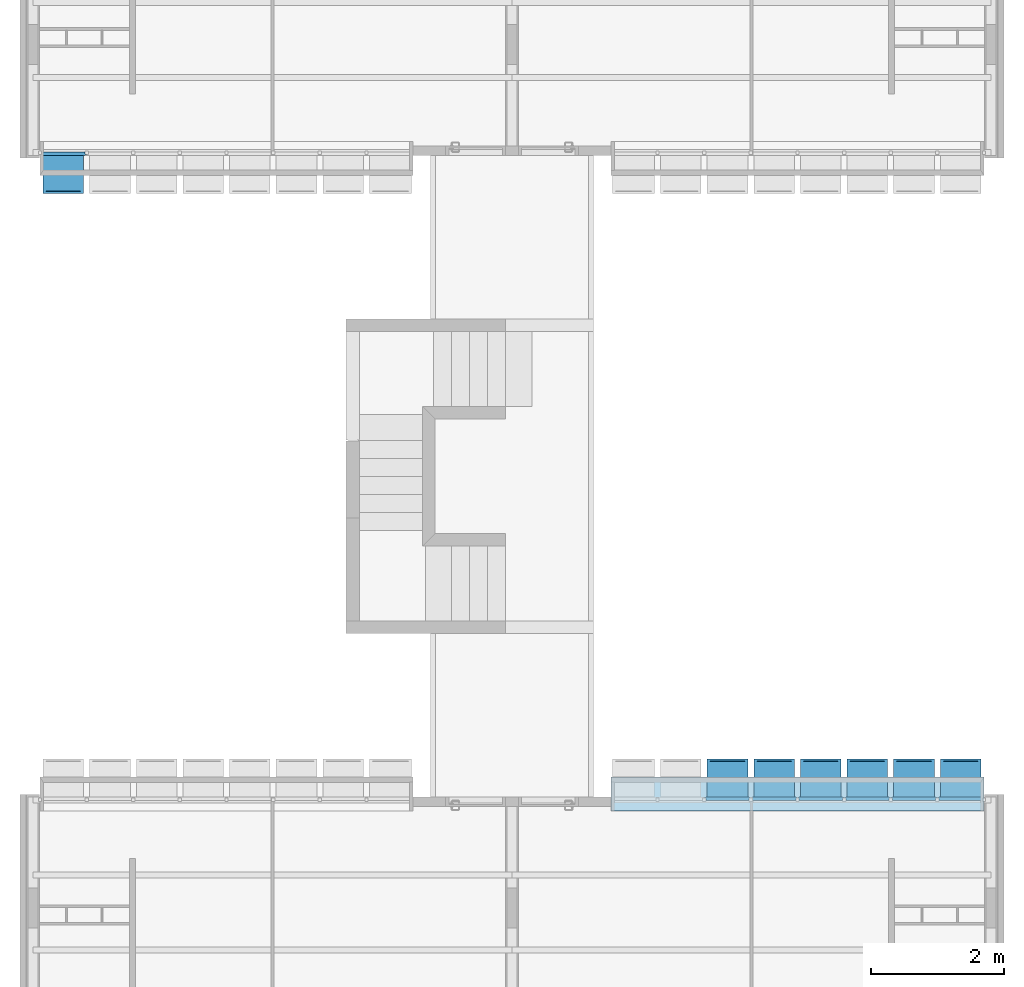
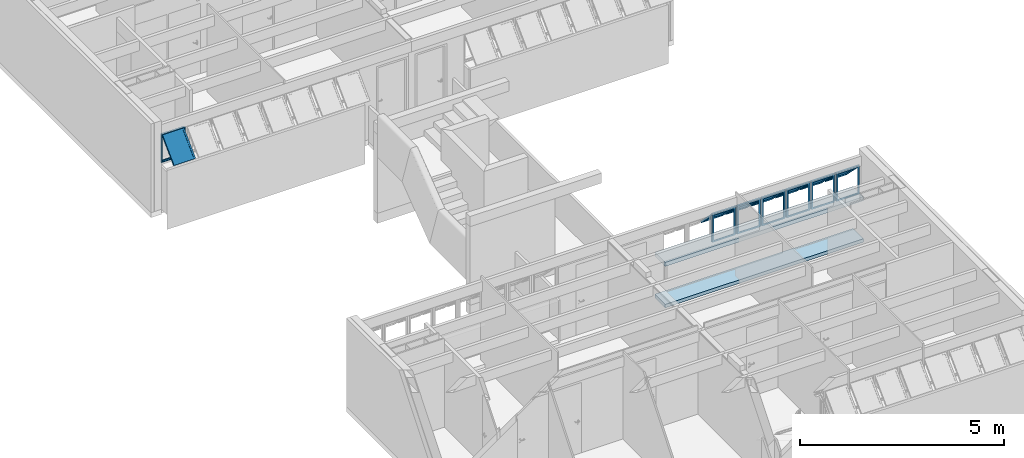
# One storey, part 10 of 40: 7 plates, 2 slabs, 2 elements without a shape of their own.
"""IFC4 building model written with IfcOpenShell, lengths in millimetres."""

import ifcopenshell
import ifcopenshell.guid

model = None  # the IFC model being written
_history = None  # IfcOwnerHistory: only IFC2X3 demands one
_inside = {}  # id of a spatial element -> (the spatial element, [elements in it])
_under = {}  # id of a project, library or spatial element -> (it, [spatial elements below it])
_declared = {}  # id of a project -> (the project, [libraries it declares])
_typed = {}  # id of a type object -> (the type object, [elements of that type])
_made_of = {}  # id of a material, layer set ... -> (it, [elements and type objects made of it])


def new_model(schema):
    """Start an empty IFC model of exactly this schema.

    Asked for "IFC4X3", IfcOpenShell would pick the latest addendum, in which some entities
    have other attributes; the version numbers below select the first issue.
    IFC2X3 requires an IfcOwnerHistory on every rooted entity: one is made here for all.
    """
    global model, _history
    if schema == "IFC4X3":
        model = ifcopenshell.file(schema_version=(4, 3, 0, 0))
    else:
        model = ifcopenshell.file(schema=schema)
    _inside.clear()
    _under.clear()
    _declared.clear()
    _typed.clear()
    _made_of.clear()
    _history = None
    if model.schema == "IFC2X3":
        org = make("IfcOrganization", Name="unknown")
        user = make(
            "IfcPersonAndOrganization",
            ThePerson=make("IfcPerson", FamilyName="unknown"),
            TheOrganization=org,
        )
        app = make(
            "IfcApplication",
            ApplicationDeveloper=org,
            Version="unknown",
            ApplicationFullName="unknown",
            ApplicationIdentifier="unknown",
        )
        _history = make(
            "IfcOwnerHistory",
            OwningUser=user,
            OwningApplication=app,
            ChangeAction="ADDED",
            CreationDate=0,
        )
    return model


def make(cls, **values):
    """One entity of the class cls with the attributes given. An attribute that is None is left unset."""
    return model.create_entity(
        cls, **{name: value for name, value in values.items() if value is not None}
    )


def entity(cls, *values):
    """Any entity or typed value of the class cls, its attributes in the order of the schema. None: left unset."""
    e = model.create_entity(cls)
    for i, value in enumerate(values):
        if value is not None:
            e[i] = value
    return e


def rooted(cls, **values):
    """An entity with a GlobalId (a new one), such as an element, a storey or a relation."""
    return make(cls, GlobalId=ifcopenshell.guid.new(), OwnerHistory=_history, **values)


def si_unit(unit_type, name, prefix=None):
    """IfcSIUnit, for example si_unit("LENGTHUNIT", "METRE", prefix="MILLI")."""
    return make("IfcSIUnit", UnitType=unit_type, Prefix=prefix, Name=name)


def converted_unit(unit_type, name, factor, base, dimensions=None, offset=None):
    """IfcConversionBasedUnit, such as the inch: factor (a typed value) times the base unit."""
    return make(
        "IfcConversionBasedUnit"
        if offset is None
        else "IfcConversionBasedUnitWithOffset",
        ConversionOffset=offset,
        Dimensions=None
        if dimensions is None
        else entity("IfcDimensionalExponents", *dimensions),
        UnitType=unit_type,
        Name=name,
        ConversionFactor=make(
            "IfcMeasureWithUnit", ValueComponent=factor, UnitComponent=base
        ),
    )


def derived_unit(unit_type, elements):
    """IfcDerivedUnit: a product of units, each with its exponent."""
    return make(
        "IfcDerivedUnit",
        Elements=[
            make("IfcDerivedUnitElement", Unit=unit, Exponent=power)
            for unit, power in elements
        ],
        UnitType=unit_type,
    )


def assignment(units):
    """IfcUnitAssignment: the units of a project."""
    return None if units is None else make("IfcUnitAssignment", Units=units)


def point(xyz):
    """IfcCartesianPoint."""
    return None if xyz is None else make("IfcCartesianPoint", Coordinates=xyz)


def direction(xyz):
    """IfcDirection."""
    return None if xyz is None else make("IfcDirection", DirectionRatios=xyz)


def frame(location, z_axis=None, x_axis=None):
    """IfcAxis2Placement3D, a coordinate frame: its origin and axes. An axis left out is left unset."""
    return make(
        "IfcAxis2Placement3D",
        Location=point(location),
        Axis=direction(z_axis),
        RefDirection=direction(x_axis),
    )


def origin_with_axes():
    """The frame at (0, 0, 0) with the z axis (0, 0, 1) and the x axis (1, 0, 0) written out."""
    return frame((0.0, 0.0, 0.0), z_axis=(0.0, 0.0, 1.0), x_axis=(1.0, 0.0, 0.0))


def place(relative_to, where):
    """IfcLocalPlacement: puts the frame where relative to a parent placement (None: the world)."""
    return make(
        "IfcLocalPlacement", PlacementRelTo=relative_to, RelativePlacement=where
    )


def context(
    kind, dimensions, precision=None, world=None, true_north=None, identifier=None
):
    """IfcGeometricRepresentationContext, for example the 3D "Model" context."""
    return make(
        "IfcGeometricRepresentationContext",
        ContextIdentifier=identifier,
        ContextType=kind,
        CoordinateSpaceDimension=dimensions,
        Precision=precision,
        WorldCoordinateSystem=world,
        TrueNorth=true_north,
    )


def subcontext(parent, identifier, kind, view, scale=None):
    """IfcGeometricRepresentationSubContext, for example "Body" below "Model"."""
    return make(
        "IfcGeometricRepresentationSubContext",
        ContextIdentifier=identifier,
        ContextType=kind,
        ParentContext=parent,
        TargetScale=scale,
        TargetView=view,
    )


def project(units=None, contexts=None):
    """IfcProject with its units and contexts."""
    return rooted(
        "IfcProject",
        Name="project",
        RepresentationContexts=contexts,
        UnitsInContext=assignment(units),
    )


def spatial(cls, under=None, at=None, **own):
    """A site, building, storey or space (cls), placed at a placement, below another one or the project."""
    s = rooted(cls, ObjectPlacement=at, **own)
    if under is not None:
        _under.setdefault(under.id(), (under, []))[1].append(s)
    return s


def point_list(points):
    """IfcCartesianPointList2D or 3D."""
    cls = (
        "IfcCartesianPointList2D" if len(points[0]) == 2 else "IfcCartesianPointList3D"
    )
    return make(cls, CoordList=points)


def line(*indices):
    """IfcLineIndex: a straight run through numbered points of an indexed curve."""
    return model.create_entity("IfcLineIndex", indices)


def indexed_curve(points, segments=None, self_intersect=None):
    """IfcIndexedPolyCurve: lines and arcs through numbered points (the first is 1)."""
    return make(
        "IfcIndexedPolyCurve",
        Points=point_list(points),
        Segments=segments,
        SelfIntersect=self_intersect,
    )


def outline(outer, holes=None, kind="AREA"):
    """IfcArbitraryClosedProfileDef: a profile drawn as a closed curve; with holes, ...WithVoids."""
    if holes is None:
        return make("IfcArbitraryClosedProfileDef", ProfileType=kind, OuterCurve=outer)
    return make(
        "IfcArbitraryProfileDefWithVoids",
        ProfileType=kind,
        OuterCurve=outer,
        InnerCurves=holes,
    )


def extrude(swept, where, along, depth):
    """IfcExtrudedAreaSolid: the profile swept, set in the frame where, extruded along a direction by depth."""
    return make(
        "IfcExtrudedAreaSolid",
        SweptArea=swept,
        Position=where,
        ExtrudedDirection=direction(along),
        Depth=depth,
    )


def polygons(points, faces, closed=None, point_numbers=None):
    """IfcPolygonalFaceSet: a face is its outer loop, then its inner loops; points numbered from 1."""
    made = []
    for loops in faces:
        if len(loops) == 1:
            made.append(make("IfcIndexedPolygonalFace", CoordIndex=loops[0]))
        else:
            made.append(
                make(
                    "IfcIndexedPolygonalFaceWithVoids",
                    CoordIndex=loops[0],
                    InnerCoordIndices=loops[1:],
                )
            )
    return make(
        "IfcPolygonalFaceSet",
        Coordinates=point_list(points),
        Closed=closed,
        Faces=made,
        PnIndex=point_numbers,
    )


def shape(context_of_items, identifier, shape_type, items):
    """IfcShapeRepresentation: the items that make up one representation, for example the "Body"."""
    return make(
        "IfcShapeRepresentation",
        ContextOfItems=context_of_items,
        RepresentationIdentifier=identifier,
        RepresentationType=shape_type,
        Items=items,
    )


def source(mapping_origin, context_of_items, identifier, shape_type, items):
    """IfcRepresentationMap: a shape defined once, which mapped items show again and again."""
    return make(
        "IfcRepresentationMap",
        MappingOrigin=mapping_origin,
        MappedRepresentation=shape(context_of_items, identifier, shape_type, items),
    )


def transform(
    local_origin,
    x_axis=None,
    y_axis=None,
    z_axis=None,
    scale=None,
    scale2=None,
    scale3=None,
    uniform=True,
):
    """IfcCartesianTransformationOperator3D, or its non-uniform kind. x_axis, y_axis, z_axis: its Axis1, 2, 3."""
    if uniform:
        return make(
            "IfcCartesianTransformationOperator3D",
            Axis1=direction(x_axis),
            Axis2=direction(y_axis),
            LocalOrigin=point(local_origin),
            Scale=scale,
            Axis3=direction(z_axis),
        )
    return make(
        "IfcCartesianTransformationOperator3DnonUniform",
        Axis1=direction(x_axis),
        Axis2=direction(y_axis),
        LocalOrigin=point(local_origin),
        Scale=scale,
        Axis3=direction(z_axis),
        Scale2=scale2,
        Scale3=scale3,
    )


def mapped(mapping_source, mapping_target):
    """IfcMappedItem: shows the shape of a source again, moved by a transform."""
    return make(
        "IfcMappedItem", MappingSource=mapping_source, MappingTarget=mapping_target
    )


def material(Name=None, Category=None):
    """IfcMaterial."""
    return make("IfcMaterial", Name=Name, Category=Category)


def layer(
    of_material, thickness, ventilated=None, Name=None, Category=None, Priority=None
):
    """IfcMaterialLayer: one layer of a wall or slab, of a material (None: an air gap)."""
    return make(
        "IfcMaterialLayer",
        Material=of_material,
        LayerThickness=thickness,
        IsVentilated=ventilated,
        Name=Name,
        Category=Category,
        Priority=Priority,
    )


def layer_set(layers, Name=None):
    """IfcMaterialLayerSet."""
    return make("IfcMaterialLayerSet", MaterialLayers=layers, LayerSetName=Name)


def layer_usage(for_layer_set, set_direction, sense, offset, extent=None):
    """IfcMaterialLayerSetUsage: how a layer set lies in its element."""
    return make(
        "IfcMaterialLayerSetUsage",
        ForLayerSet=for_layer_set,
        LayerSetDirection=set_direction,
        DirectionSense=sense,
        OffsetFromReferenceLine=offset,
        ReferenceExtent=extent,
    )


def constituent(of_material, Name=None, Category=None, fraction=None):
    """IfcMaterialConstituent: one of the materials an element consists of."""
    return make(
        "IfcMaterialConstituent",
        Name=Name,
        Material=of_material,
        Fraction=fraction,
        Category=Category,
    )


def constituent_set(constituents=None, Name=None):
    """IfcMaterialConstituentSet."""
    return make(
        "IfcMaterialConstituentSet", Name=Name, MaterialConstituents=constituents
    )


def made_of(thing, what):
    """Note that an element or type object is made of a material, layer set ...; save() writes the relation."""
    if what is not None:
        _made_of.setdefault(what.id(), (what, []))[1].append(thing)
    return thing


def type_object(cls, material=None, **own):
    """A type object (cls), such as IfcWallType, which elements share."""
    return made_of(rooted(cls, **own), material)


def element(
    cls,
    number,
    at=None,
    inside=None,
    cuts=None,
    type_object=None,
    material=None,
    context=None,
    identifier="Body",
    shape_type=None,
    held_by="IfcProductDefinitionShape",
    body=None,
    shapes=None,
    **own,
):
    """One element of the class cls, such as IfcWall. Its Tag is "e" and its number.

    at: its placement. inside: the storey or other place that contains it. cuts: it is an
    opening in that element (IfcRelVoidsElement). A single representation is given by context,
    identifier, shape_type and body (its items); several are given by shapes. held_by: the class
    of the entity that holds the representations. save() writes the other relations.
    """
    e = rooted(cls, Tag="e%d" % number, ObjectPlacement=at, **own)
    if body is not None:
        shapes = [shape(context, identifier, shape_type, body)]
    if shapes is not None:
        e.Representation = make(held_by, Representations=shapes)
    if inside is not None:
        _inside.setdefault(inside.id(), (inside, []))[1].append(e)
    if cuts is not None:
        rooted(
            "IfcRelVoidsElement", RelatingBuildingElement=cuts, RelatedOpeningElement=e
        )
    if type_object is not None:
        _typed.setdefault(type_object.id(), (type_object, []))[1].append(e)
    return made_of(e, material)


def aggregate(whole, parts):
    """IfcRelAggregates: a whole, such as a stair, and the parts it consists of."""
    return rooted("IfcRelAggregates", RelatingObject=whole, RelatedObjects=parts)


def save(model, path):
    """Write the relations noted so far, then the file.

    IfcRelAggregates (storeys below a building ...), IfcRelContainedInSpatialStructure (elements
    in a storey), IfcRelDefinesByType, IfcRelAssociatesMaterial and IfcRelDeclares: one each for
    every whole, place, type object, material and project.
    """
    for whole, parts in _under.values():
        aggregate(whole, parts)
    for where, things in _inside.values():
        rooted(
            "IfcRelContainedInSpatialStructure",
            RelatedElements=things,
            RelatingStructure=where,
        )
    for kind, things in _typed.values():
        rooted("IfcRelDefinesByType", RelatedObjects=things, RelatingType=kind)
    for what, things in _made_of.values():
        rooted("IfcRelAssociatesMaterial", RelatedObjects=things, RelatingMaterial=what)
    for by, libraries in _declared.values():
        rooted("IfcRelDeclares", RelatingContext=by, RelatedDefinitions=libraries)
    model.write(path)


model = new_model("IFC4")

# Units and contexts
model_context = context("Model", 3, precision=0.01, world=origin_with_axes(), true_north=direction((0.0, 1.0)))
body_context = subcontext(model_context, "Body", "Model", "MODEL_VIEW")
ifc_project = project(units=[si_unit("LENGTHUNIT", "METRE", prefix="MILLI"), si_unit("AREAUNIT", "SQUARE_METRE"), si_unit("VOLUMEUNIT", "CUBIC_METRE"), converted_unit("PLANEANGLEUNIT", "DEGREE", entity("IfcPlaneAngleMeasure", 0.0174532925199), si_unit("PLANEANGLEUNIT", "RADIAN"), dimensions=[0, 0, 0, 0, 0, 0, 0]), converted_unit("TIMEUNIT", "Year", entity("IfcTimeMeasure", 31556926.0), si_unit("TIMEUNIT", "SECOND"), dimensions=[0, 0, 1, 0, 0, 0, 0]), si_unit("MASSUNIT", "GRAM", prefix="KILO"), si_unit("THERMODYNAMICTEMPERATUREUNIT", "DEGREE_CELSIUS"), si_unit("LUMINOUSINTENSITYUNIT", "LUMEN"), si_unit("ENERGYUNIT", "JOULE", prefix="MEGA"), derived_unit("THERMALCONDUCTANCEUNIT", [(si_unit("POWERUNIT", "WATT"), 1), (si_unit("LENGTHUNIT", "METRE"), -1), (si_unit("THERMODYNAMICTEMPERATUREUNIT", "KELVIN"), -1)]), derived_unit("SPECIFICHEATCAPACITYUNIT", [(si_unit("ENERGYUNIT", "JOULE"), 1), (si_unit("MASSUNIT", "GRAM", prefix="KILO"), -1), (si_unit("THERMODYNAMICTEMPERATUREUNIT", "KELVIN"), -1)]), derived_unit("MASSDENSITYUNIT", [(si_unit("MASSUNIT", "GRAM", prefix="KILO"), 1), (si_unit("VOLUMEUNIT", "CUBIC_METRE"), -1)])], contexts=[model_context])

# Site, building, storey
site_placement = place(None, origin_with_axes())
site = spatial("IfcSite", under=ifc_project, at=site_placement, Name="Local", CompositionType="ELEMENT")
building_placement = place(site_placement, origin_with_axes())
building = spatial("IfcBuilding", under=site, at=building_placement, Name="Construção", CompositionType="ELEMENT")
storey_placement = place(building_placement, origin_with_axes())
storey = spatial("IfcBuildingStorey", under=building, at=storey_placement, Name="Primeiro Pavimento", CompositionType="ELEMENT", Elevation=0.0)

# Slab
ifc_material_1 = material(Name="Concreto Armado Moldado in Loco - Estrutural")
ifc_layer_1 = layer(ifc_material_1, 120.0, ventilated="UNKNOWN", Name="Concreto Armado Moldado in Loco - Estrutural")
ifc_layer_set_1 = layer_set([ifc_layer_1], Name="Concreto Armado Moldado in Loco - Estrutural 120")
ifc_layer_usage_1 = layer_usage(ifc_layer_set_1, "AXIS3", "NEGATIVE", 120.0)
slab_type_1 = type_object("IfcSlabType", Name="Concreto Armado Moldado in Loco - Estrutural 120", PredefinedType="FLOOR")
slab_1_placement = place(storey_placement, frame((14470.0, 8564.99999866, 1355.0), z_axis=(0.0, 0.0, 1.0), x_axis=(1.0, 0.0, 0.0)))
element("IfcSlab", 1, at=slab_1_placement, inside=storey, type_object=slab_type_1, material=ifc_layer_usage_1, Name="APTO2-LAJE-003", PredefinedType="FLOOR", context=body_context, shape_type="SweptSolid", body=[
    extrude(outline(indexed_curve([(0.0, 0.0), (-5600.0, 0.0), (-5600.0, -510.0), (0.0, -510.0)], segments=[line(1, 2, 3, 4, 1)])), frame((0.0, 0.0, -120.0), z_axis=(0.0, 0.0, 1.0), x_axis=(1.0, 0.0, 0.0)), (0.0, 0.0, 1.0), 120.0),
])

# Window, plates
window_type = type_object("IfcWindowType", Name="Tipo de Parede Cortina", PartitioningType="NOTDEFINED", PredefinedType="NOTDEFINED")
window_1_placement = place(storey_placement, frame((12020.0, 8250.0, 1355.00007107), z_axis=(0.0, 0.0, 1.0), x_axis=(1.0, 0.0, 0.0)))
window_1 = element("IfcWindow", 2, at=window_1_placement, inside=storey, type_object=window_type, Name="APTO2-JANELA-000", PredefinedType="NOTDEFINED")
ifc_material_2 = material(Name="Alumínio")
ifc_constituent_1 = constituent(ifc_material_2, Name="Alumínio")
ifc_material_3 = material(Name="Vidro")
ifc_constituent_2 = constituent(ifc_material_3, Name="Vidro")
ifc_constituent_set_1 = constituent_set(constituents=[ifc_constituent_1, ifc_constituent_2])
plate_type = type_object("IfcPlateType", Name="Painel Principal 690 x 845 x 20", PredefinedType="CURTAIN_PANEL")
shared_shape_1 = source(origin_with_axes(), body_context, "Body", "Tessellation", [
    polygons([(25.0000036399, 0.0, -40.0), (674.999997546, 0.0, -40.0), (674.999997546, 0.0, -35.0), (25.0000036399, 0.0, -35.0), (70.0000036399, 45.0, -40.0), (629.999997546, 45.0, -40.0), (629.999997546, 45.0, -35.0), (70.0000036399, 45.0, -35.0)], [[[1, 2, 3, 4]], [[1, 5, 6, 2]], [[2, 6, 7, 3]], [[4, 3, 7, 8]], [[5, 1, 4, 8]], [[6, 5, 8, 7]]], closed=True),
    polygons([(674.999997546, 0.0, -40.0), (674.999997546, 844.999891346, -40.0), (674.999997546, 844.999891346, -35.0), (674.999997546, 0.0, -35.0), (629.999997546, 45.0, -40.0), (629.999997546, 799.999891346, -40.0), (629.999997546, 799.999891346, -35.0), (629.999997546, 45.0, -35.0)], [[[1, 2, 3, 4]], [[1, 5, 6, 2]], [[2, 6, 7, 3]], [[4, 3, 7, 8]], [[5, 1, 4, 8]], [[6, 5, 8, 7]]], closed=True),
    polygons([(25.0000036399, 844.999891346, -40.0), (70.0000036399, 799.999891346, -40.0), (70.0000036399, 799.999891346, -35.0), (25.0000036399, 844.999891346, -35.0), (674.999997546, 844.999891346, -40.0), (629.999997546, 799.999891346, -40.0), (629.999997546, 799.999891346, -35.0), (674.999997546, 844.999891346, -35.0)], [[[1, 2, 3, 4]], [[1, 5, 6, 2]], [[2, 6, 7, 3]], [[4, 3, 7, 8]], [[5, 1, 4, 8]], [[6, 5, 8, 7]]], closed=True),
    polygons([(25.0000036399, 0.0, -40.0), (70.0000036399, 45.0, -40.0), (70.0000036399, 45.0, -35.0), (25.0000036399, 0.0, -35.0), (25.0000036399, 844.999891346, -40.0), (70.0000036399, 799.999891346, -40.0), (70.0000036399, 799.999891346, -35.0), (25.0000036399, 844.999891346, -35.0)], [[[1, 2, 3, 4]], [[1, 5, 6, 2]], [[2, 6, 7, 3]], [[4, 3, 7, 8]], [[5, 1, 4, 8]], [[6, 5, 8, 7]]], closed=True),
    polygons([(25.0000036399, 0.0, -35.0), (674.999997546, 0.0, -35.0), (674.999997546, 0.0, 15.0), (25.0000036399, 0.0, 15.0), (45.0000036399, 20.0, -35.0), (654.999997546, 20.0, -35.0), (654.999997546, 20.0, 15.0), (45.0000036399, 20.0, 15.0)], [[[1, 2, 3, 4]], [[1, 5, 6, 2]], [[2, 6, 7, 3]], [[4, 3, 7, 8]], [[5, 1, 4, 8]], [[6, 5, 8, 7]]], closed=True),
    polygons([(674.999997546, 0.0, -35.0), (674.999997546, 844.999891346, -35.0), (674.999997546, 844.999891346, 15.0), (674.999997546, 0.0, 15.0), (654.999997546, 20.0, -35.0), (654.999997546, 824.999891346, -35.0), (654.999997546, 824.999891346, 15.0), (654.999997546, 20.0, 15.0)], [[[1, 2, 3, 4]], [[1, 5, 6, 2]], [[2, 6, 7, 3]], [[4, 3, 7, 8]], [[5, 1, 4, 8]], [[6, 5, 8, 7]]], closed=True),
    polygons([(25.0000036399, 844.999891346, -35.0), (45.0000036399, 824.999891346, -35.0), (45.0000036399, 824.999891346, 15.0), (25.0000036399, 844.999891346, 15.0), (674.999997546, 844.999891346, -35.0), (654.999997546, 824.999891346, -35.0), (654.999997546, 824.999891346, 15.0), (674.999997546, 844.999891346, 15.0)], [[[1, 2, 3, 4]], [[1, 5, 6, 2]], [[2, 6, 7, 3]], [[4, 3, 7, 8]], [[5, 1, 4, 8]], [[6, 5, 8, 7]]], closed=True),
    polygons([(25.0000036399, 0.0, -35.0), (45.0000036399, 20.0, -35.0), (45.0000036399, 20.0, 15.0), (25.0000036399, 0.0, 15.0), (25.0000036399, 844.999891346, -35.0), (45.0000036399, 824.999891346, -35.0), (45.0000036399, 824.999891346, 15.0), (25.0000036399, 844.999891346, 15.0)], [[[1, 2, 3, 4]], [[1, 5, 6, 2]], [[2, 6, 7, 3]], [[4, 3, 7, 8]], [[5, 1, 4, 8]], [[6, 5, 8, 7]]], closed=True),
    polygons([(694.999995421, 0.0, -10.0), (694.999995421, 844.999891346, -10.0), (694.999995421, 844.999891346, 10.0), (694.999995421, 0.0, 10.0), (674.999997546, 0.0, -10.0), (674.999997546, 844.999891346, -10.0), (674.999997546, 844.999891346, 10.0), (674.999997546, 0.0, 10.0)], [[[1, 2, 3, 4]], [[1, 5, 6, 2]], [[2, 6, 7, 3]], [[4, 3, 7, 8]], [[5, 1, 4, 8]], [[6, 5, 8, 7]]], closed=True),
    polygons([(5.00000576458, 844.999891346, -10.0), (5.00000576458, 0.0, -10.0), (5.00000576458, 0.0, 10.0), (5.00000576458, 844.999891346, 10.0), (25.0000036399, 844.999891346, -10.0), (25.0000036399, 0.0, -10.0), (25.0000036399, 0.0, 10.0), (25.0000036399, 844.999891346, 10.0)], [[[1, 2, 3, 4]], [[1, 5, 6, 2]], [[2, 6, 7, 3]], [[4, 3, 7, 8]], [[5, 1, 4, 8]], [[6, 5, 8, 7]]], closed=True),
    polygons([(90.0000036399, 252.243475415, 517.045737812), (90.0000036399, 757.824747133, 11.4644660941), (90.0000036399, 796.715620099, 50.3553390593), (90.0000036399, 291.13434838, 555.936610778), (45.0000036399, 220.423670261, 548.865542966), (45.0000036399, 789.644552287, -20.3553390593), (45.0000036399, 828.535425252, 18.5355339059), (45.0000036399, 259.314543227, 587.756415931)], [[[1, 2, 3, 4]], [[1, 5, 6, 2]], [[2, 6, 7, 3]], [[4, 3, 7, 8]], [[5, 1, 4, 8]], [[6, 5, 8, 7]]], closed=True),
    polygons([(654.999997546, 220.423670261, 548.865542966), (654.999997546, 789.644552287, -20.3553390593), (654.999997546, 828.535425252, 18.5355339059), (654.999997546, 259.314543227, 587.756415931), (609.999997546, 252.243475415, 517.045737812), (609.999997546, 757.824747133, 11.4644660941), (609.999997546, 796.715620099, 50.3553390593), (609.999997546, 291.13434838, 555.936610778)], [[[1, 2, 3, 4]], [[1, 5, 6, 2]], [[2, 6, 7, 3]], [[4, 3, 7, 8]], [[5, 1, 4, 8]], [[6, 5, 8, 7]]], closed=True),
    polygons([(654.999997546, 220.423670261, 548.865542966), (609.999997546, 252.243475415, 517.045737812), (609.999997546, 291.13434838, 555.936610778), (654.999997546, 259.314543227, 587.756415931), (45.0000036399, 220.423670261, 548.865542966), (90.0000036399, 252.243475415, 517.045737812), (90.0000036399, 291.13434838, 555.936610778), (45.0000036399, 259.314543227, 587.756415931)], [[[1, 2, 3, 4]], [[1, 5, 6, 2]], [[2, 6, 7, 3]], [[4, 3, 7, 8]], [[5, 1, 4, 8]], [[6, 5, 8, 7]]], closed=True),
    polygons([(45.0000036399, 789.644552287, -20.3553390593), (90.0000036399, 757.824747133, 11.4644660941), (90.0000036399, 796.715620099, 50.3553390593), (45.0000036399, 828.535425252, 18.5355339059), (654.999997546, 789.644552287, -20.3553390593), (609.999997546, 757.824747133, 11.4644660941), (609.999997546, 796.715620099, 50.3553390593), (654.999997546, 828.535425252, 18.5355339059)], [[[1, 2, 3, 4]], [[1, 5, 6, 2]], [[2, 6, 7, 3]], [[4, 3, 7, 8]], [[5, 1, 4, 8]], [[6, 5, 8, 7]]], closed=True),
    polygons([(90.0000036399, 272.749572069, 537.551834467), (609.999997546, 272.749572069, 537.551834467), (609.999997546, 284.063280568, 548.865542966), (90.0000036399, 284.063280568, 548.865542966), (90.0000036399, 778.330843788, 31.9705627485), (609.999997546, 778.330843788, 31.9705627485), (609.999997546, 789.644552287, 43.2842712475), (90.0000036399, 789.644552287, 43.2842712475)], [[[1, 2, 3, 4]], [[1, 5, 6, 2]], [[2, 6, 7, 3]], [[4, 3, 7, 8]], [[5, 1, 4, 8]], [[6, 5, 8, 7]]], closed=True),
])
plate_1_placement = place(window_1_placement, frame((0.0, 0.0, 422.499964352), z_axis=(0.0, 0.0, 1.0), x_axis=(1.0, 0.0, 0.0)))
plate_1 = element("IfcPlate", 3, at=plate_1_placement, type_object=plate_type, material=ifc_constituent_set_1, Name="APTO2-Painel-Prin-013", PredefinedType="CURTAIN_PANEL", context=body_context, shape_type="MappedRepresentation", body=[
    mapped(shared_shape_1, transform((350.0, 0.0, -422.499964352), x_axis=(-1.0, 0.0, 0.0), y_axis=(0.0, 0.0, 1.0), z_axis=(0.0, 1.0, 0.0))),
])
ifc_constituent_3 = constituent(ifc_material_2, Name="Alumínio")
ifc_constituent_4 = constituent(ifc_material_3, Name="Vidro")
ifc_constituent_set_2 = constituent_set(constituents=[ifc_constituent_3, ifc_constituent_4])
shared_shape_2 = source(origin_with_axes(), body_context, "Body", "Tessellation", [
    polygons([(25.0000036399, 0.0, -40.0), (674.999997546, 0.0, -40.0), (674.999997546, 0.0, -35.0), (25.0000036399, 0.0, -35.0), (70.0000036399, 45.0, -40.0), (629.999997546, 45.0, -40.0), (629.999997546, 45.0, -35.0), (70.0000036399, 45.0, -35.0)], [[[1, 2, 3, 4]], [[1, 5, 6, 2]], [[2, 6, 7, 3]], [[4, 3, 7, 8]], [[5, 1, 4, 8]], [[6, 5, 8, 7]]], closed=True),
    polygons([(674.999997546, 0.0, -40.0), (674.999997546, 844.999891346, -40.0), (674.999997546, 844.999891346, -35.0), (674.999997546, 0.0, -35.0), (629.999997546, 45.0, -40.0), (629.999997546, 799.999891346, -40.0), (629.999997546, 799.999891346, -35.0), (629.999997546, 45.0, -35.0)], [[[1, 2, 3, 4]], [[1, 5, 6, 2]], [[2, 6, 7, 3]], [[4, 3, 7, 8]], [[5, 1, 4, 8]], [[6, 5, 8, 7]]], closed=True),
    polygons([(25.0000036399, 844.999891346, -40.0), (70.0000036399, 799.999891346, -40.0), (70.0000036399, 799.999891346, -35.0), (25.0000036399, 844.999891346, -35.0), (674.999997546, 844.999891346, -40.0), (629.999997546, 799.999891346, -40.0), (629.999997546, 799.999891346, -35.0), (674.999997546, 844.999891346, -35.0)], [[[1, 2, 3, 4]], [[1, 5, 6, 2]], [[2, 6, 7, 3]], [[4, 3, 7, 8]], [[5, 1, 4, 8]], [[6, 5, 8, 7]]], closed=True),
    polygons([(25.0000036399, 0.0, -40.0), (70.0000036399, 45.0, -40.0), (70.0000036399, 45.0, -35.0), (25.0000036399, 0.0, -35.0), (25.0000036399, 844.999891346, -40.0), (70.0000036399, 799.999891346, -40.0), (70.0000036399, 799.999891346, -35.0), (25.0000036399, 844.999891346, -35.0)], [[[1, 2, 3, 4]], [[1, 5, 6, 2]], [[2, 6, 7, 3]], [[4, 3, 7, 8]], [[5, 1, 4, 8]], [[6, 5, 8, 7]]], closed=True),
    polygons([(25.0000036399, 0.0, -35.0), (674.999997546, 0.0, -35.0), (674.999997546, 0.0, 15.0), (25.0000036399, 0.0, 15.0), (45.0000036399, 20.0, -35.0), (654.999997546, 20.0, -35.0), (654.999997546, 20.0, 15.0), (45.0000036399, 20.0, 15.0)], [[[1, 2, 3, 4]], [[1, 5, 6, 2]], [[2, 6, 7, 3]], [[4, 3, 7, 8]], [[5, 1, 4, 8]], [[6, 5, 8, 7]]], closed=True),
    polygons([(674.999997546, 0.0, -35.0), (674.999997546, 844.999891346, -35.0), (674.999997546, 844.999891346, 15.0), (674.999997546, 0.0, 15.0), (654.999997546, 20.0, -35.0), (654.999997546, 824.999891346, -35.0), (654.999997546, 824.999891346, 15.0), (654.999997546, 20.0, 15.0)], [[[1, 2, 3, 4]], [[1, 5, 6, 2]], [[2, 6, 7, 3]], [[4, 3, 7, 8]], [[5, 1, 4, 8]], [[6, 5, 8, 7]]], closed=True),
    polygons([(25.0000036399, 844.999891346, -35.0), (45.0000036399, 824.999891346, -35.0), (45.0000036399, 824.999891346, 15.0), (25.0000036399, 844.999891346, 15.0), (674.999997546, 844.999891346, -35.0), (654.999997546, 824.999891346, -35.0), (654.999997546, 824.999891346, 15.0), (674.999997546, 844.999891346, 15.0)], [[[1, 2, 3, 4]], [[1, 5, 6, 2]], [[2, 6, 7, 3]], [[4, 3, 7, 8]], [[5, 1, 4, 8]], [[6, 5, 8, 7]]], closed=True),
    polygons([(25.0000036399, 0.0, -35.0), (45.0000036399, 20.0, -35.0), (45.0000036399, 20.0, 15.0), (25.0000036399, 0.0, 15.0), (25.0000036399, 844.999891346, -35.0), (45.0000036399, 824.999891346, -35.0), (45.0000036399, 824.999891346, 15.0), (25.0000036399, 844.999891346, 15.0)], [[[1, 2, 3, 4]], [[1, 5, 6, 2]], [[2, 6, 7, 3]], [[4, 3, 7, 8]], [[5, 1, 4, 8]], [[6, 5, 8, 7]]], closed=True),
    polygons([(694.999995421, 0.0, -10.0), (694.999995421, 844.999891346, -10.0), (694.999995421, 844.999891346, 10.0), (694.999995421, 0.0, 10.0), (674.999997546, 0.0, -10.0), (674.999997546, 844.999891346, -10.0), (674.999997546, 844.999891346, 10.0), (674.999997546, 0.0, 10.0)], [[[1, 2, 3, 4]], [[1, 5, 6, 2]], [[2, 6, 7, 3]], [[4, 3, 7, 8]], [[5, 1, 4, 8]], [[6, 5, 8, 7]]], closed=True),
    polygons([(5.00000576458, 844.999891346, -10.0), (5.00000576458, 0.0, -10.0), (5.00000576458, 0.0, 10.0), (5.00000576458, 844.999891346, 10.0), (25.0000036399, 844.999891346, -10.0), (25.0000036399, 0.0, -10.0), (25.0000036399, 0.0, 10.0), (25.0000036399, 844.999891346, 10.0)], [[[1, 2, 3, 4]], [[1, 5, 6, 2]], [[2, 6, 7, 3]], [[4, 3, 7, 8]], [[5, 1, 4, 8]], [[6, 5, 8, 7]]], closed=True),
    polygons([(90.0000036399, 252.243475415, 517.045737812), (90.0000036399, 757.824747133, 11.4644660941), (90.0000036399, 796.715620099, 50.3553390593), (90.0000036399, 291.13434838, 555.936610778), (45.0000036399, 220.423670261, 548.865542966), (45.0000036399, 789.644552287, -20.3553390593), (45.0000036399, 828.535425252, 18.5355339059), (45.0000036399, 259.314543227, 587.756415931)], [[[1, 2, 3, 4]], [[1, 5, 6, 2]], [[2, 6, 7, 3]], [[4, 3, 7, 8]], [[5, 1, 4, 8]], [[6, 5, 8, 7]]], closed=True),
    polygons([(654.999997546, 220.423670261, 548.865542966), (654.999997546, 789.644552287, -20.3553390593), (654.999997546, 828.535425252, 18.5355339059), (654.999997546, 259.314543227, 587.756415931), (609.999997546, 252.243475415, 517.045737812), (609.999997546, 757.824747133, 11.4644660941), (609.999997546, 796.715620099, 50.3553390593), (609.999997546, 291.13434838, 555.936610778)], [[[1, 2, 3, 4]], [[1, 5, 6, 2]], [[2, 6, 7, 3]], [[4, 3, 7, 8]], [[5, 1, 4, 8]], [[6, 5, 8, 7]]], closed=True),
    polygons([(654.999997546, 220.423670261, 548.865542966), (609.999997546, 252.243475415, 517.045737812), (609.999997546, 291.13434838, 555.936610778), (654.999997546, 259.314543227, 587.756415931), (45.0000036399, 220.423670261, 548.865542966), (90.0000036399, 252.243475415, 517.045737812), (90.0000036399, 291.13434838, 555.936610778), (45.0000036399, 259.314543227, 587.756415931)], [[[1, 2, 3, 4]], [[1, 5, 6, 2]], [[2, 6, 7, 3]], [[4, 3, 7, 8]], [[5, 1, 4, 8]], [[6, 5, 8, 7]]], closed=True),
    polygons([(45.0000036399, 789.644552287, -20.3553390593), (90.0000036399, 757.824747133, 11.4644660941), (90.0000036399, 796.715620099, 50.3553390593), (45.0000036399, 828.535425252, 18.5355339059), (654.999997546, 789.644552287, -20.3553390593), (609.999997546, 757.824747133, 11.4644660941), (609.999997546, 796.715620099, 50.3553390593), (654.999997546, 828.535425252, 18.5355339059)], [[[1, 2, 3, 4]], [[1, 5, 6, 2]], [[2, 6, 7, 3]], [[4, 3, 7, 8]], [[5, 1, 4, 8]], [[6, 5, 8, 7]]], closed=True),
    polygons([(90.0000036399, 272.749572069, 537.551834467), (609.999997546, 272.749572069, 537.551834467), (609.999997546, 284.063280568, 548.865542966), (90.0000036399, 284.063280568, 548.865542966), (90.0000036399, 778.330843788, 31.9705627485), (609.999997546, 778.330843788, 31.9705627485), (609.999997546, 789.644552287, 43.2842712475), (90.0000036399, 789.644552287, 43.2842712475)], [[[1, 2, 3, 4]], [[1, 5, 6, 2]], [[2, 6, 7, 3]], [[4, 3, 7, 8]], [[5, 1, 4, 8]], [[6, 5, 8, 7]]], closed=True),
])
plate_2_placement = place(window_1_placement, frame((2100.0, 0.0, 422.499998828), z_axis=(0.0, 0.0, 1.0), x_axis=(1.0, 0.0, 0.0)))
plate_2 = element("IfcPlate", 4, at=plate_2_placement, type_object=plate_type, material=ifc_constituent_set_2, Name="APTO2-Painel-Prin-013", PredefinedType="CURTAIN_PANEL", context=body_context, shape_type="MappedRepresentation", body=[
    mapped(shared_shape_2, transform((350.0, 0.0, -422.499998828), x_axis=(-1.0, 0.0, 0.0), y_axis=(0.0, 0.0, 1.0), z_axis=(0.0, 1.0, 0.0))),
])
ifc_constituent_5 = constituent(ifc_material_2, Name="Alumínio")
ifc_constituent_6 = constituent(ifc_material_3, Name="Vidro")
ifc_constituent_set_3 = constituent_set(constituents=[ifc_constituent_5, ifc_constituent_6])
plate_3_placement = place(window_1_placement, frame((1400.0, 0.0, 422.499964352), z_axis=(0.0, 0.0, 1.0), x_axis=(1.0, 0.0, 0.0)))
plate_3 = element("IfcPlate", 5, at=plate_3_placement, type_object=plate_type, material=ifc_constituent_set_3, Name="APTO2-Painel-Prin-013", PredefinedType="CURTAIN_PANEL", context=body_context, shape_type="MappedRepresentation", body=[
    mapped(shared_shape_2, transform((350.0, 0.0, -422.499964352), x_axis=(-1.0, 0.0, 0.0), y_axis=(0.0, 0.0, 1.0), z_axis=(0.0, 1.0, 0.0))),
])
ifc_constituent_7 = constituent(ifc_material_2, Name="Alumínio")
ifc_constituent_8 = constituent(ifc_material_3, Name="Vidro")
ifc_constituent_set_4 = constituent_set(constituents=[ifc_constituent_7, ifc_constituent_8])
plate_4_placement = place(window_1_placement, frame((-1400.0, 0.0, 422.499964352), z_axis=(0.0, 0.0, 1.0), x_axis=(1.0, 0.0, 0.0)))
plate_4 = element("IfcPlate", 6, at=plate_4_placement, type_object=plate_type, material=ifc_constituent_set_4, Name="APTO2-Painel-Prin-025", PredefinedType="CURTAIN_PANEL", context=body_context, shape_type="MappedRepresentation", body=[
    mapped(shared_shape_2, transform((350.0, 0.0, -422.499964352), x_axis=(-1.0, 0.0, 0.0), y_axis=(0.0, 0.0, 1.0), z_axis=(0.0, 1.0, 0.0))),
])

# Window, plate
window_2_placement = place(storey_placement, frame((2750.0, 17910.0, 1355.00007107), z_axis=(0.0, 0.0, 1.0), x_axis=(1.0, 0.0, 0.0)))
window_2 = element("IfcWindow", 7, at=window_2_placement, inside=storey, type_object=window_type, Name="APTO3-JANELA-000", PredefinedType="NOTDEFINED")
ifc_constituent_9 = constituent(ifc_material_2, Name="Alumínio")
ifc_constituent_10 = constituent(ifc_material_3, Name="Vidro")
ifc_constituent_set_5 = constituent_set(constituents=[ifc_constituent_9, ifc_constituent_10])
plate_5_placement = place(window_2_placement, frame((-2100.0, 0.0, 422.499998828), z_axis=(0.0, 0.0, 1.0), x_axis=(-1.0, 0.0, 0.0)))
plate_5 = element("IfcPlate", 8, at=plate_5_placement, type_object=plate_type, material=ifc_constituent_set_5, Name="APTO3-Painel-Prin-013", PredefinedType="CURTAIN_PANEL", context=body_context, shape_type="MappedRepresentation", body=[
    mapped(shared_shape_2, transform((350.0, 0.0, -422.499998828), x_axis=(-1.0, 0.0, 0.0), y_axis=(0.0, 0.0, 1.0), z_axis=(0.0, 1.0, 0.0))),
])
aggregate(window_2, [plate_5])

# Plate
ifc_constituent_11 = constituent(ifc_material_2, Name="Alumínio")
ifc_constituent_12 = constituent(ifc_material_3, Name="Vidro")
ifc_constituent_set_6 = constituent_set(constituents=[ifc_constituent_11, ifc_constituent_12])
shared_shape_3 = source(origin_with_axes(), body_context, "Body", "Tessellation", [
    polygons([(25.0000036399, 0.0, -40.0), (674.999997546, 0.0, -40.0), (674.999997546, 0.0, -35.0), (25.0000036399, 0.0, -35.0), (70.0000036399, 45.0, -40.0), (629.999997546, 45.0, -40.0), (629.999997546, 45.0, -35.0), (70.0000036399, 45.0, -35.0)], [[[1, 2, 3, 4]], [[1, 5, 6, 2]], [[2, 6, 7, 3]], [[4, 3, 7, 8]], [[5, 1, 4, 8]], [[6, 5, 8, 7]]], closed=True),
    polygons([(674.999997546, 0.0, -40.0), (674.999997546, 844.999891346, -40.0), (674.999997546, 844.999891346, -35.0), (674.999997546, 0.0, -35.0), (629.999997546, 45.0, -40.0), (629.999997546, 799.999891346, -40.0), (629.999997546, 799.999891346, -35.0), (629.999997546, 45.0, -35.0)], [[[1, 2, 3, 4]], [[1, 5, 6, 2]], [[2, 6, 7, 3]], [[4, 3, 7, 8]], [[5, 1, 4, 8]], [[6, 5, 8, 7]]], closed=True),
    polygons([(25.0000036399, 844.999891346, -40.0), (70.0000036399, 799.999891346, -40.0), (70.0000036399, 799.999891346, -35.0), (25.0000036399, 844.999891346, -35.0), (674.999997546, 844.999891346, -40.0), (629.999997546, 799.999891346, -40.0), (629.999997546, 799.999891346, -35.0), (674.999997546, 844.999891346, -35.0)], [[[1, 2, 3, 4]], [[1, 5, 6, 2]], [[2, 6, 7, 3]], [[4, 3, 7, 8]], [[5, 1, 4, 8]], [[6, 5, 8, 7]]], closed=True),
    polygons([(25.0000036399, 0.0, -40.0), (70.0000036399, 45.0, -40.0), (70.0000036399, 45.0, -35.0), (25.0000036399, 0.0, -35.0), (25.0000036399, 844.999891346, -40.0), (70.0000036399, 799.999891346, -40.0), (70.0000036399, 799.999891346, -35.0), (25.0000036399, 844.999891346, -35.0)], [[[1, 2, 3, 4]], [[1, 5, 6, 2]], [[2, 6, 7, 3]], [[4, 3, 7, 8]], [[5, 1, 4, 8]], [[6, 5, 8, 7]]], closed=True),
    polygons([(25.0000036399, 0.0, -35.0), (674.999997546, 0.0, -35.0), (674.999997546, 0.0, 15.0), (25.0000036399, 0.0, 15.0), (45.0000036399, 20.0, -35.0), (654.999997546, 20.0, -35.0), (654.999997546, 20.0, 15.0), (45.0000036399, 20.0, 15.0)], [[[1, 2, 3, 4]], [[1, 5, 6, 2]], [[2, 6, 7, 3]], [[4, 3, 7, 8]], [[5, 1, 4, 8]], [[6, 5, 8, 7]]], closed=True),
    polygons([(674.999997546, 0.0, -35.0), (674.999997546, 844.999891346, -35.0), (674.999997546, 844.999891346, 15.0), (674.999997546, 0.0, 15.0), (654.999997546, 20.0, -35.0), (654.999997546, 824.999891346, -35.0), (654.999997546, 824.999891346, 15.0), (654.999997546, 20.0, 15.0)], [[[1, 2, 3, 4]], [[1, 5, 6, 2]], [[2, 6, 7, 3]], [[4, 3, 7, 8]], [[5, 1, 4, 8]], [[6, 5, 8, 7]]], closed=True),
    polygons([(25.0000036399, 844.999891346, -35.0), (45.0000036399, 824.999891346, -35.0), (45.0000036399, 824.999891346, 15.0), (25.0000036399, 844.999891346, 15.0), (674.999997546, 844.999891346, -35.0), (654.999997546, 824.999891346, -35.0), (654.999997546, 824.999891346, 15.0), (674.999997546, 844.999891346, 15.0)], [[[1, 2, 3, 4]], [[1, 5, 6, 2]], [[2, 6, 7, 3]], [[4, 3, 7, 8]], [[5, 1, 4, 8]], [[6, 5, 8, 7]]], closed=True),
    polygons([(25.0000036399, 0.0, -35.0), (45.0000036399, 20.0, -35.0), (45.0000036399, 20.0, 15.0), (25.0000036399, 0.0, 15.0), (25.0000036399, 844.999891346, -35.0), (45.0000036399, 824.999891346, -35.0), (45.0000036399, 824.999891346, 15.0), (25.0000036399, 844.999891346, 15.0)], [[[1, 2, 3, 4]], [[1, 5, 6, 2]], [[2, 6, 7, 3]], [[4, 3, 7, 8]], [[5, 1, 4, 8]], [[6, 5, 8, 7]]], closed=True),
    polygons([(694.999995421, 0.0, -10.0), (694.999995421, 844.999891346, -10.0), (694.999995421, 844.999891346, 10.0), (694.999995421, 0.0, 10.0), (674.999997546, 0.0, -10.0), (674.999997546, 844.999891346, -10.0), (674.999997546, 844.999891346, 10.0), (674.999997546, 0.0, 10.0)], [[[1, 2, 3, 4]], [[1, 5, 6, 2]], [[2, 6, 7, 3]], [[4, 3, 7, 8]], [[5, 1, 4, 8]], [[6, 5, 8, 7]]], closed=True),
    polygons([(5.00000576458, 844.999891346, -10.0), (5.00000576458, 0.0, -10.0), (5.00000576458, 0.0, 10.0), (5.00000576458, 844.999891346, 10.0), (25.0000036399, 844.999891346, -10.0), (25.0000036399, 0.0, -10.0), (25.0000036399, 0.0, 10.0), (25.0000036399, 844.999891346, 10.0)], [[[1, 2, 3, 4]], [[1, 5, 6, 2]], [[2, 6, 7, 3]], [[4, 3, 7, 8]], [[5, 1, 4, 8]], [[6, 5, 8, 7]]], closed=True),
    polygons([(90.0000036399, 252.243475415, 517.045737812), (90.0000036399, 757.824747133, 11.4644660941), (90.0000036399, 796.715620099, 50.3553390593), (90.0000036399, 291.13434838, 555.936610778), (45.0000036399, 220.423670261, 548.865542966), (45.0000036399, 789.644552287, -20.3553390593), (45.0000036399, 828.535425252, 18.5355339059), (45.0000036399, 259.314543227, 587.756415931)], [[[1, 2, 3, 4]], [[1, 5, 6, 2]], [[2, 6, 7, 3]], [[4, 3, 7, 8]], [[5, 1, 4, 8]], [[6, 5, 8, 7]]], closed=True),
    polygons([(654.999997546, 220.423670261, 548.865542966), (654.999997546, 789.644552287, -20.3553390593), (654.999997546, 828.535425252, 18.5355339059), (654.999997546, 259.314543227, 587.756415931), (609.999997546, 252.243475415, 517.045737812), (609.999997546, 757.824747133, 11.4644660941), (609.999997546, 796.715620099, 50.3553390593), (609.999997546, 291.13434838, 555.936610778)], [[[1, 2, 3, 4]], [[1, 5, 6, 2]], [[2, 6, 7, 3]], [[4, 3, 7, 8]], [[5, 1, 4, 8]], [[6, 5, 8, 7]]], closed=True),
    polygons([(654.999997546, 220.423670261, 548.865542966), (609.999997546, 252.243475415, 517.045737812), (609.999997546, 291.13434838, 555.936610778), (654.999997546, 259.314543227, 587.756415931), (45.0000036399, 220.423670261, 548.865542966), (90.0000036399, 252.243475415, 517.045737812), (90.0000036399, 291.13434838, 555.936610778), (45.0000036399, 259.314543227, 587.756415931)], [[[1, 2, 3, 4]], [[1, 5, 6, 2]], [[2, 6, 7, 3]], [[4, 3, 7, 8]], [[5, 1, 4, 8]], [[6, 5, 8, 7]]], closed=True),
    polygons([(45.0000036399, 789.644552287, -20.3553390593), (90.0000036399, 757.824747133, 11.4644660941), (90.0000036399, 796.715620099, 50.3553390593), (45.0000036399, 828.535425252, 18.5355339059), (654.999997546, 789.644552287, -20.3553390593), (609.999997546, 757.824747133, 11.4644660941), (609.999997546, 796.715620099, 50.3553390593), (654.999997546, 828.535425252, 18.5355339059)], [[[1, 2, 3, 4]], [[1, 5, 6, 2]], [[2, 6, 7, 3]], [[4, 3, 7, 8]], [[5, 1, 4, 8]], [[6, 5, 8, 7]]], closed=True),
    polygons([(90.0000036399, 272.749572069, 537.551834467), (609.999997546, 272.749572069, 537.551834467), (609.999997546, 284.063280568, 548.865542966), (90.0000036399, 284.063280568, 548.865542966), (90.0000036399, 778.330843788, 31.9705627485), (609.999997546, 778.330843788, 31.9705627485), (609.999997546, 789.644552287, 43.2842712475), (90.0000036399, 789.644552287, 43.2842712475)], [[[1, 2, 3, 4]], [[1, 5, 6, 2]], [[2, 6, 7, 3]], [[4, 3, 7, 8]], [[5, 1, 4, 8]], [[6, 5, 8, 7]]], closed=True),
])
plate_6_placement = place(window_1_placement, frame((-700.0, 0.0, 422.499964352), z_axis=(0.0, 0.0, 1.0), x_axis=(1.0, 0.0, 0.0)))
plate_6 = element("IfcPlate", 9, at=plate_6_placement, type_object=plate_type, material=ifc_constituent_set_6, Name="APTO2-Painel-Prin-013", PredefinedType="CURTAIN_PANEL", context=body_context, shape_type="MappedRepresentation", body=[
    mapped(shared_shape_3, transform((350.0, 0.0, -422.499964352), x_axis=(-1.0, 0.0, 0.0), y_axis=(0.0, 0.0, 1.0), z_axis=(0.0, 1.0, 0.0))),
])

ifc_constituent_13 = constituent(ifc_material_2, Name="Alumínio")
ifc_constituent_14 = constituent(ifc_material_3, Name="Vidro")
ifc_constituent_set_7 = constituent_set(constituents=[ifc_constituent_13, ifc_constituent_14])
plate_7_placement = place(window_1_placement, frame((700.0, 0.0, 422.499964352), z_axis=(0.0, 0.0, 1.0), x_axis=(1.0, 0.0, 0.0)))
plate_7 = element("IfcPlate", 10, at=plate_7_placement, type_object=plate_type, material=ifc_constituent_set_7, Name="APTO2-Painel-Prin-013", PredefinedType="CURTAIN_PANEL", context=body_context, shape_type="MappedRepresentation", body=[
    mapped(shared_shape_3, transform((350.0, 0.0, -422.499964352), x_axis=(-1.0, 0.0, 0.0), y_axis=(0.0, 0.0, 1.0), z_axis=(0.0, 1.0, 0.0))),
])

aggregate(window_1, [plate_1, plate_2, plate_3, plate_6, plate_4, plate_7])

# Slab
ifc_layer_2 = layer(ifc_material_1, 100.0, ventilated="UNKNOWN", Name="Concreto Armado Moldado in Loco - Estrutural")
ifc_layer_set_2 = layer_set([ifc_layer_2], Name="Concreto Armado Moldado in Loco - Estrutural 100")
ifc_layer_usage_2 = layer_usage(ifc_layer_set_2, "AXIS3", "NEGATIVE", 100.0)
slab_type_2 = type_object("IfcSlabType", Name="Concreto Armado Moldado in Loco - Estrutural 100", PredefinedType="FLOOR")
slab_2_placement = place(storey_placement, frame((14470.0, 8564.99999866, 100.0), z_axis=(0.0, 0.0, 1.0), x_axis=(1.0, 0.0, 0.0)))
element("IfcSlab", 11, at=slab_2_placement, inside=storey, type_object=slab_type_2, material=ifc_layer_usage_2, Name="APTO2-LAJE-004", PredefinedType="FLOOR", context=body_context, shape_type="SweptSolid", body=[
    extrude(outline(indexed_curve([(0.0, 0.0), (-5600.0, 0.0), (-5600.0, -510.0), (0.0, -510.0)], segments=[line(1, 2, 3, 4, 1)])), frame((0.0, 0.0, -100.0), z_axis=(0.0, 0.0, 1.0), x_axis=(1.0, 0.0, 0.0)), (0.0, 0.0, 1.0), 100.0),
])

save(model, "model.ifc")
